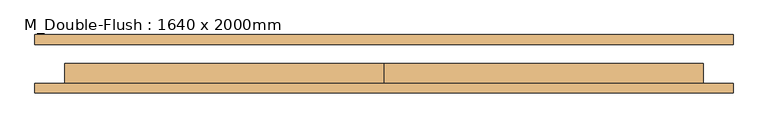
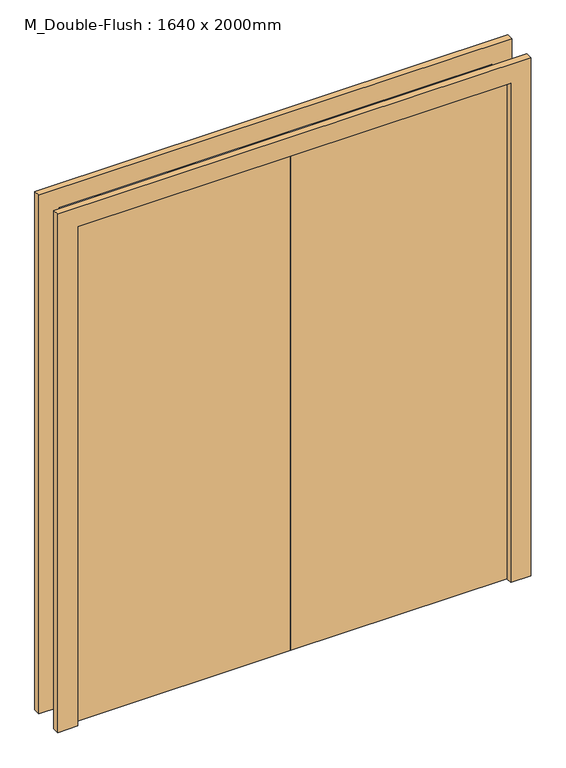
"""IFC4 building model written with IfcOpenShell, lengths in millimetres: door geometry, M_Double-Flush : 1640 x 2000mm."""

from ifc_helpers import new_model, si_unit, frame, origin, origin_with_axes, place, context, project, spatial, polyline, outline, extrude, source, transform, mapped, element, save


def m_double_flush_1640_x_2000mm_b55f45f4(model_context):
    return source(origin(), model_context, "Body", "SweptSolid", [
        extrude(outline(polyline([(0.0, -50.0), (0.0, 1.0), (820.0, 1.0), (820.0, -50.0), (0.0, -50.0)])), origin_with_axes(), (0.0, 0.0, 1.0), 2000.0),
        extrude(outline(polyline([(-820.0, -50.0), (-820.0, 1.0), (0.0, 1.0), (0.0, -50.0), (-820.0, -50.0)])), origin_with_axes(), (0.0, 0.0, 1.0), 2000.0),
        extrude(outline(polyline([(2000.0, -820.0), (2000.0, 820.0), (0.0, 820.0), (0.0, 896.0), (2076.0, 896.0), (2076.0, -896.0), (0.0, -896.0), (0.0, -820.0), (2000.0, -820.0)])), frame((0.0, 50.0, 0.0), z_axis=(0.0, 1.0, 0.0), x_axis=(0.0, 0.0, 1.0)), (0.0, 0.0, 1.0), 25.0),
        extrude(outline(polyline([(2000.0, -820.0), (2000.0, 820.0), (0.0, 820.0), (0.0, 896.0), (2076.0, 896.0), (2076.0, -896.0), (0.0, -896.0), (0.0, -820.0), (2000.0, -820.0)])), frame((0.0, -75.0, 0.0), z_axis=(0.0, 1.0, 0.0), x_axis=(0.0, 0.0, 1.0)), (0.0, 0.0, 1.0), 25.0),
    ])


if __name__ == "__main__":
    model = new_model("IFC4")
    model_context = context("Model", 3, world=origin())
    ifc_project = project(units=[si_unit("LENGTHUNIT", "METRE", prefix="MILLI")], contexts=[model_context])
    site = spatial("IfcSite", under=ifc_project)
    building = spatial("IfcBuilding", under=site)
    placement = place(None, origin())
    m_double_flush_1640_x_2000mm_shape = m_double_flush_1640_x_2000mm_b55f45f4(model_context)
    element("IfcDoor", 1, ObjectType="M_Double-Flush : 1640 x 2000mm", at=placement, inside=building, context=model_context, shape_type="MappedRepresentation", body=[
        mapped(m_double_flush_1640_x_2000mm_shape, transform((0.0, 0.0, 0.0), x_axis=(1.0, 0.0, 0.0), y_axis=(0.0, 1.0, 0.0), z_axis=(0.0, 0.0, 1.0))),
    ])
    save(model, "model.ifc")
